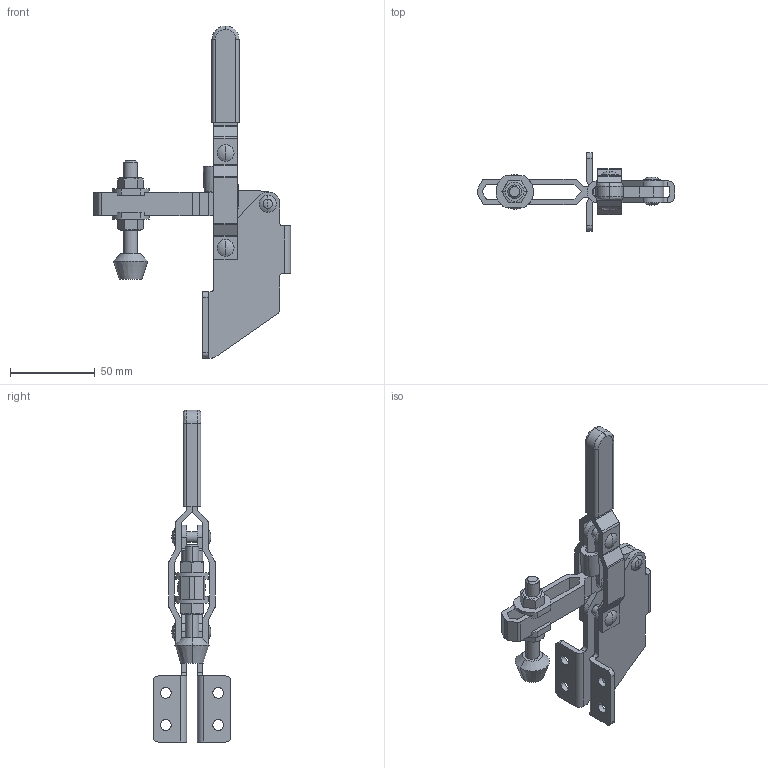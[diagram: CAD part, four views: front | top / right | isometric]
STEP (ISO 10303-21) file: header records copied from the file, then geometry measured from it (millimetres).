
FILE_DESCRIPTION(('CATIA V5 STEP Exchange'),'2;1');
FILE_NAME('D:\Model\toggle\toggle_standard\KJF_018_11A.stp','2005-06-24T04:51:35+00:00',('none'),('none'),'CATIA Version 5 Release 11 (IN-9)','CATIA V5 STEP AP203',' none');
FILE_SCHEMA(('CONFIG_CONTROL_DESIGN'));
Length unit declared in the file: millimetre
Products named in the file (1): Part1
Bounding box: 116.4 x 46 x 196 mm (x, y, z)
Volume: 66171.7 mm3; surface area: 44685.1 mm2
Topology: 14 solids, 14 shells, 326 faces, 872 edges, 566 vertices
Faces by surface type: plane 152, cylinder 136, sphere 24, cone 6, bspline 4, torus 4
Entity records: 10066 total; most frequent: CARTESIAN_POINT 2227, ORIENTED_EDGE 1712, DIRECTION 1342, EDGE_CURVE 856, AXIS2_PLACEMENT_3D 589, VERTEX_POINT 566, VECTOR 492, LINE 492
